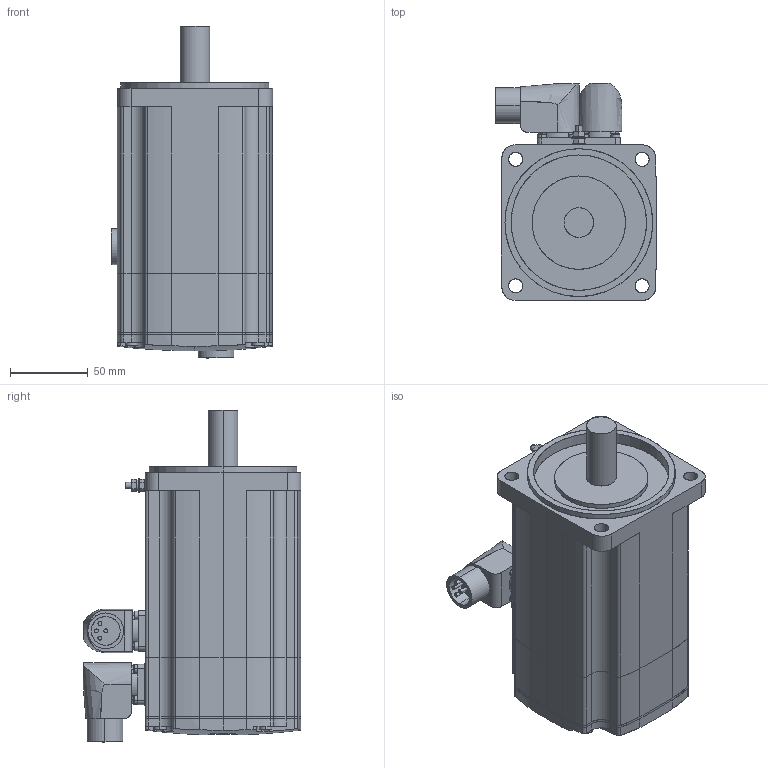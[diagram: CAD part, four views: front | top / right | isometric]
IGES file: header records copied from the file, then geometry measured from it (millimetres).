
Start section: SolidWorks IGES file using analytic representation for surfaces
Global section: file name: C:\PDM\SW-SAP\AA-IGES\SH31001x0xA2100.IGS; native system: SolidWorks 2010; preprocessor: SolidWorks 2010; author: SESA21951; date: 131129.100428; units: millimetre
Bounding box: 103.65 x 139.9 x 213.45 mm (x, y, z)
Surface area: 157131.5 mm2 (no closed solid volume)
Topology: 0 solids, 0 shells, 434 faces, 6446 edges, 6446 vertices
Faces by surface type: revolution 227, bspline 207
